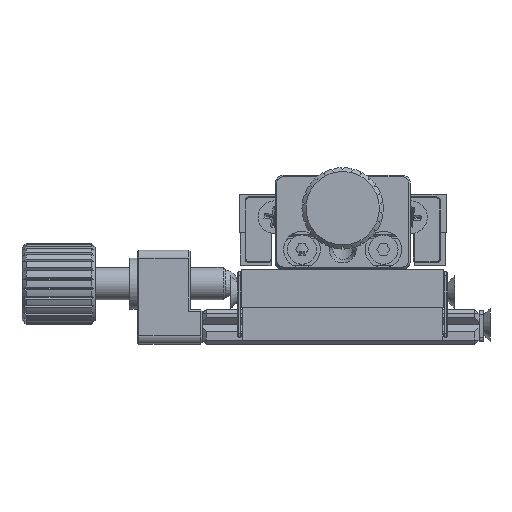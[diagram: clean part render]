
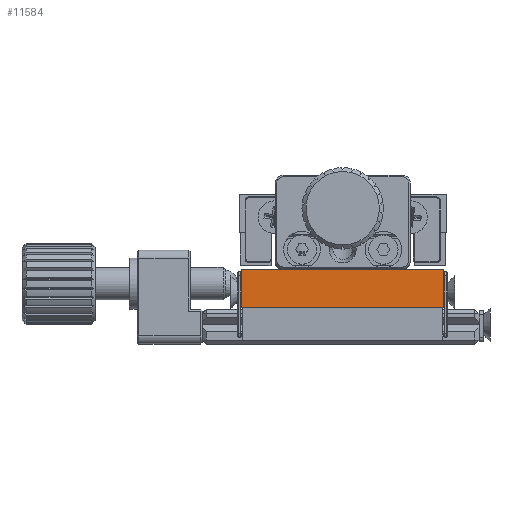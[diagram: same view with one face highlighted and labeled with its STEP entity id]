
A CAD part, top view. The second image highlights one B-rep face of the part: STEP entity #11584.
In plain terms, the highlighted planar face has unit normal (0, 0, 1).
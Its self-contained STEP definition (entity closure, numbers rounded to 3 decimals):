
#676 = CARTESIAN_POINT ( 'NONE',  ( 14.656, -0.758, 12.7 ) ) ;
#686 = DIRECTION ( 'NONE',  ( 0., -1., 0. ) ) ;
#711 = DIRECTION ( 'NONE',  ( 1., 0., 0. ) ) ;
#719 = CARTESIAN_POINT ( 'NONE',  ( -10.144, -0.758, 12.7 ) ) ;
#724 = CARTESIAN_POINT ( 'NONE',  ( -10.144, -5.458, 12.7 ) ) ;
#726 = DIRECTION ( 'NONE',  ( 1., 0., 0. ) ) ;
#727 = CARTESIAN_POINT ( 'NONE',  ( -10.144, -0.758, 12.7 ) ) ;
#728 = DIRECTION ( 'NONE',  ( 0., -1., 0. ) ) ;
#784 = CARTESIAN_POINT ( 'NONE',  ( 14.656, -5.458, 12.7 ) ) ;
#864 = CARTESIAN_POINT ( 'NONE',  ( 14.656, -0.758, 12.7 ) ) ;
#873 = CARTESIAN_POINT ( 'NONE',  ( -10.144, -0.758, 12.7 ) ) ;
#877 = CARTESIAN_POINT ( 'NONE',  ( -10.144, -5.458, 12.7 ) ) ;
#3915 = AXIS2_PLACEMENT_3D ( 'NONE', #17843, #17847, #17848 ) ;
#9759 = FACE_OUTER_BOUND ( 'NONE', #19301, .T. ) ;
#11584 = ADVANCED_FACE ( 'NONE', ( #9759 ), #17845, .F. ) ;
#12923 = VERTEX_POINT ( 'NONE', #784 ) ;
#13020 = VERTEX_POINT ( 'NONE', #864 ) ;
#13030 = VERTEX_POINT ( 'NONE', #873 ) ;
#13036 = VERTEX_POINT ( 'NONE', #877 ) ;
#17843 = CARTESIAN_POINT ( 'NONE',  ( -10.144, -0.758, 12.7 ) ) ;
#17845 = PLANE ( 'NONE',  #3915 ) ;
#17847 = DIRECTION ( 'NONE',  ( 0., 0., -1. ) ) ;
#17848 = DIRECTION ( 'NONE',  ( -1., 0., 0. ) ) ;
#19301 = EDGE_LOOP ( 'NONE', ( #21908, #21907, #21905, #21903 ) ) ;
#21903 = ORIENTED_EDGE ( 'NONE', *, *, #22509, .T. ) ;
#21905 = ORIENTED_EDGE ( 'NONE', *, *, #22508, .F. ) ;
#21907 = ORIENTED_EDGE ( 'NONE', *, *, #22492, .F. ) ;
#21908 = ORIENTED_EDGE ( 'NONE', *, *, #22507, .T. ) ;
#22492 = EDGE_CURVE ( 'NONE', #13020, #12923, #24724, .T. ) ;
#22507 = EDGE_CURVE ( 'NONE', #13036, #12923, #24714, .T. ) ;
#22508 = EDGE_CURVE ( 'NONE', #13030, #13020, #24709, .T. ) ;
#22509 = EDGE_CURVE ( 'NONE', #13030, #13036, #24698, .T. ) ;
#24695 = VECTOR ( 'NONE', #728, 1000. ) ;
#24697 = VECTOR ( 'NONE', #726, 1000. ) ;
#24698 = LINE ( 'NONE', #727, #24695 ) ;
#24701 = VECTOR ( 'NONE', #711, 1000. ) ;
#24709 = LINE ( 'NONE', #719, #24697 ) ;
#24714 = LINE ( 'NONE', #724, #24701 ) ;
#24723 = VECTOR ( 'NONE', #686, 1000. ) ;
#24724 = LINE ( 'NONE', #676, #24723 ) ;
